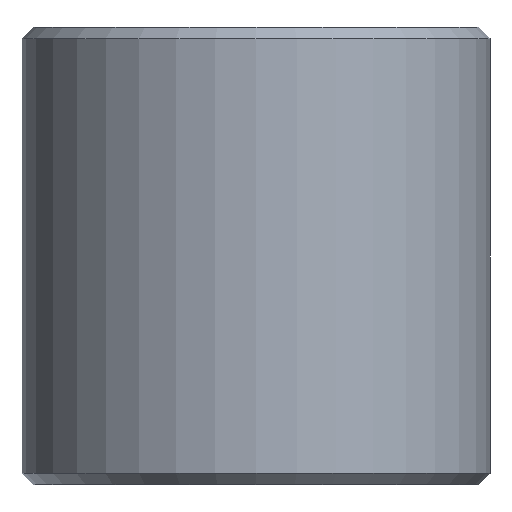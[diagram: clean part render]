
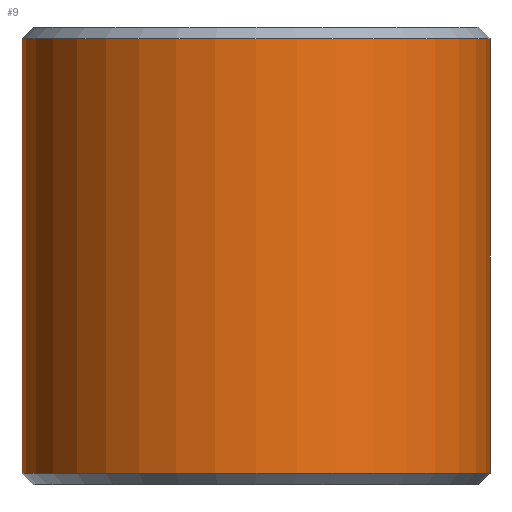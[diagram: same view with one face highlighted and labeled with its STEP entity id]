
A CAD part, front view. The second image highlights one B-rep face of the part: STEP entity #9.
In plain terms, the highlighted cylindrical face has radius 22.5 mm (diameter 45 mm), a partial arc.
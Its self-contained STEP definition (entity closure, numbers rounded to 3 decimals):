
#3 = VERTEX_POINT ( 'NONE', #423 ) ;
#8 = CARTESIAN_POINT ( 'NONE',  ( -22.5, 0., 22. ) ) ;
#9 = ADVANCED_FACE ( 'NONE', ( #253 ), #83, .T. ) ;
#24 = VERTEX_POINT ( 'NONE', #178 ) ;
#42 = AXIS2_PLACEMENT_3D ( 'NONE', #78, #392, #393 ) ;
#51 = ORIENTED_EDGE ( 'NONE', *, *, #85, .T. ) ;
#78 = CARTESIAN_POINT ( 'NONE',  ( 0., 0., 22. ) ) ;
#83 = CYLINDRICAL_SURFACE ( 'NONE', #42, 22.5 ) ;
#85 = EDGE_CURVE ( 'NONE', #3, #195, #328, .T. ) ;
#86 = CARTESIAN_POINT ( 'NONE',  ( -22.5, 0., -20.9 ) ) ;
#90 = CIRCLE ( 'NONE', #166, 22.5 ) ;
#107 = AXIS2_PLACEMENT_3D ( 'NONE', #260, #404, #223 ) ;
#115 = LINE ( 'NONE', #176, #265 ) ;
#121 = EDGE_CURVE ( 'NONE', #24, #220, #115, .T. ) ;
#138 = ORIENTED_EDGE ( 'NONE', *, *, #121, .F. ) ;
#166 = AXIS2_PLACEMENT_3D ( 'NONE', #261, #399, #270 ) ;
#176 = CARTESIAN_POINT ( 'NONE',  ( 22.5, 0., 22. ) ) ;
#178 = CARTESIAN_POINT ( 'NONE',  ( 22.5, 0., 20.9 ) ) ;
#183 = ORIENTED_EDGE ( 'NONE', *, *, #259, .T. ) ;
#184 = EDGE_LOOP ( 'NONE', ( #138, #247, #51, #183 ) ) ;
#195 = VERTEX_POINT ( 'NONE', #86 ) ;
#206 = VECTOR ( 'NONE', #359, 1000. ) ;
#220 = VERTEX_POINT ( 'NONE', #342 ) ;
#223 = DIRECTION ( 'NONE',  ( 1., 0., 0. ) ) ;
#247 = ORIENTED_EDGE ( 'NONE', *, *, #273, .T. ) ;
#249 = DIRECTION ( 'NONE',  ( 0., 0., -1. ) ) ;
#253 = FACE_OUTER_BOUND ( 'NONE', #184, .T. ) ;
#259 = EDGE_CURVE ( 'NONE', #195, #220, #90, .T. ) ;
#260 = CARTESIAN_POINT ( 'NONE',  ( 0., 0., 20.9 ) ) ;
#261 = CARTESIAN_POINT ( 'NONE',  ( 0., 0., -20.9 ) ) ;
#265 = VECTOR ( 'NONE', #249, 1000. ) ;
#270 = DIRECTION ( 'NONE',  ( 1., 0., 0. ) ) ;
#273 = EDGE_CURVE ( 'NONE', #24, #3, #332, .T. ) ;
#328 = LINE ( 'NONE', #8, #206 ) ;
#332 = CIRCLE ( 'NONE', #107, 22.5 ) ;
#342 = CARTESIAN_POINT ( 'NONE',  ( 22.5, 0., -20.9 ) ) ;
#359 = DIRECTION ( 'NONE',  ( 0., 0., -1. ) ) ;
#392 = DIRECTION ( 'NONE',  ( 0., 0., -1. ) ) ;
#393 = DIRECTION ( 'NONE',  ( -1., 0., 0. ) ) ;
#399 = DIRECTION ( 'NONE',  ( 0., 0., 1. ) ) ;
#404 = DIRECTION ( 'NONE',  ( 0., 0., -1. ) ) ;
#423 = CARTESIAN_POINT ( 'NONE',  ( -22.5, 0., 20.9 ) ) ;
